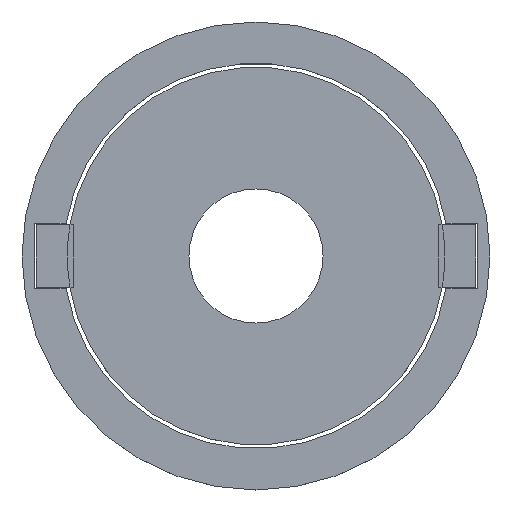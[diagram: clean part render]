
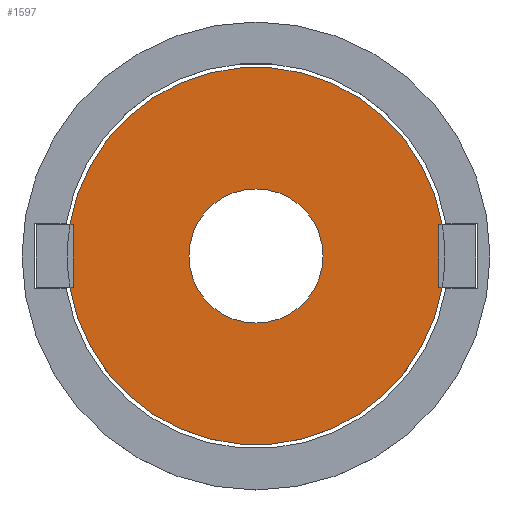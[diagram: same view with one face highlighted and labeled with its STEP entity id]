
A CAD part, top view. The second image highlights one B-rep face of the part: STEP entity #1597.
In plain terms, the highlighted planar face has unit normal (0, 0, 1).
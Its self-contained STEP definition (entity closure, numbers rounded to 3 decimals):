
#952 = CYLINDRICAL_SURFACE('',#953,12.1);
#953 = AXIS2_PLACEMENT_3D('',#954,#955,#956);
#954 = CARTESIAN_POINT('',(0.,0.,-0.8));
#955 = DIRECTION('',(0.,0.,1.));
#956 = DIRECTION('',(1.,0.,-0.));
#984 = CYLINDRICAL_SURFACE('',#985,12.1);
#985 = AXIS2_PLACEMENT_3D('',#986,#987,#988);
#986 = CARTESIAN_POINT('',(0.,0.,-0.8));
#987 = DIRECTION('',(0.,0.,1.));
#988 = DIRECTION('',(1.,0.,-0.));
#1059 = CYLINDRICAL_SURFACE('',#1060,4.3);
#1060 = AXIS2_PLACEMENT_3D('',#1061,#1062,#1063);
#1061 = CARTESIAN_POINT('',(0.,0.,-0.81));
#1062 = DIRECTION('',(0.,0.,1.));
#1063 = DIRECTION('',(1.,0.,-0.));
#1194 = EDGE_CURVE('',#1195,#1197,#1199,.T.);
#1195 = VERTEX_POINT('',#1196);
#1196 = CARTESIAN_POINT('',(11.934,2.,0.));
#1197 = VERTEX_POINT('',#1198);
#1198 = CARTESIAN_POINT('',(-11.934,2.,0.));
#1199 = SURFACE_CURVE('',#1200,(#1205,#1212),.PCURVE_S1.);
#1200 = CIRCLE('',#1201,12.1);
#1201 = AXIS2_PLACEMENT_3D('',#1202,#1203,#1204);
#1202 = CARTESIAN_POINT('',(0.,0.,0.));
#1203 = DIRECTION('',(0.,0.,1.));
#1204 = DIRECTION('',(1.,0.,-0.));
#1205 = PCURVE('',#984,#1206);
#1206 = DEFINITIONAL_REPRESENTATION('',(#1207),#1211);
#1207 = LINE('',#1208,#1209);
#1208 = CARTESIAN_POINT('',(0.,0.8));
#1209 = VECTOR('',#1210,1.);
#1210 = DIRECTION('',(1.,0.));
#1211 = ( GEOMETRIC_REPRESENTATION_CONTEXT(2) 
PARAMETRIC_REPRESENTATION_CONTEXT() REPRESENTATION_CONTEXT('2D SPACE',''
  ) );
#1212 = PCURVE('',#1213,#1218);
#1213 = PLANE('',#1214);
#1214 = AXIS2_PLACEMENT_3D('',#1215,#1216,#1217);
#1215 = CARTESIAN_POINT('',(0.,0.,0.));
#1216 = DIRECTION('',(0.,0.,1.));
#1217 = DIRECTION('',(1.,0.,-0.));
#1218 = DEFINITIONAL_REPRESENTATION('',(#1219),#1223);
#1219 = CIRCLE('',#1220,12.1);
#1220 = AXIS2_PLACEMENT_2D('',#1221,#1222);
#1221 = CARTESIAN_POINT('',(0.,0.));
#1222 = DIRECTION('',(1.,0.));
#1223 = ( GEOMETRIC_REPRESENTATION_CONTEXT(2) 
PARAMETRIC_REPRESENTATION_CONTEXT() REPRESENTATION_CONTEXT('2D SPACE',''
  ) );
#1273 = VERTEX_POINT('',#1274);
#1274 = CARTESIAN_POINT('',(11.934,-2.,0.));
#1293 = EDGE_CURVE('',#1294,#1273,#1296,.T.);
#1294 = VERTEX_POINT('',#1295);
#1295 = CARTESIAN_POINT('',(-11.934,-2.,0.));
#1296 = SURFACE_CURVE('',#1297,(#1302,#1309),.PCURVE_S1.);
#1297 = CIRCLE('',#1298,12.1);
#1298 = AXIS2_PLACEMENT_3D('',#1299,#1300,#1301);
#1299 = CARTESIAN_POINT('',(0.,0.,0.));
#1300 = DIRECTION('',(0.,0.,1.));
#1301 = DIRECTION('',(1.,0.,-0.));
#1302 = PCURVE('',#952,#1303);
#1303 = DEFINITIONAL_REPRESENTATION('',(#1304),#1308);
#1304 = LINE('',#1305,#1306);
#1305 = CARTESIAN_POINT('',(0.,0.8));
#1306 = VECTOR('',#1307,1.);
#1307 = DIRECTION('',(1.,0.));
#1308 = ( GEOMETRIC_REPRESENTATION_CONTEXT(2) 
PARAMETRIC_REPRESENTATION_CONTEXT() REPRESENTATION_CONTEXT('2D SPACE',''
  ) );
#1309 = PCURVE('',#1213,#1310);
#1310 = DEFINITIONAL_REPRESENTATION('',(#1311),#1315);
#1311 = CIRCLE('',#1312,12.1);
#1312 = AXIS2_PLACEMENT_2D('',#1313,#1314);
#1313 = CARTESIAN_POINT('',(0.,0.));
#1314 = DIRECTION('',(1.,0.));
#1315 = ( GEOMETRIC_REPRESENTATION_CONTEXT(2) 
PARAMETRIC_REPRESENTATION_CONTEXT() REPRESENTATION_CONTEXT('2D SPACE',''
  ) );
#1345 = EDGE_CURVE('',#1346,#1346,#1348,.T.);
#1346 = VERTEX_POINT('',#1347);
#1347 = CARTESIAN_POINT('',(4.3,0.,0.));
#1348 = SURFACE_CURVE('',#1349,(#1354,#1361),.PCURVE_S1.);
#1349 = CIRCLE('',#1350,4.3);
#1350 = AXIS2_PLACEMENT_3D('',#1351,#1352,#1353);
#1351 = CARTESIAN_POINT('',(0.,0.,0.));
#1352 = DIRECTION('',(0.,0.,1.));
#1353 = DIRECTION('',(1.,0.,-0.));
#1354 = PCURVE('',#1059,#1355);
#1355 = DEFINITIONAL_REPRESENTATION('',(#1356),#1360);
#1356 = LINE('',#1357,#1358);
#1357 = CARTESIAN_POINT('',(0.,0.81));
#1358 = VECTOR('',#1359,1.);
#1359 = DIRECTION('',(1.,0.));
#1360 = ( GEOMETRIC_REPRESENTATION_CONTEXT(2) 
PARAMETRIC_REPRESENTATION_CONTEXT() REPRESENTATION_CONTEXT('2D SPACE',''
  ) );
#1361 = PCURVE('',#1213,#1362);
#1362 = DEFINITIONAL_REPRESENTATION('',(#1363),#1367);
#1363 = CIRCLE('',#1364,4.3);
#1364 = AXIS2_PLACEMENT_2D('',#1365,#1366);
#1365 = CARTESIAN_POINT('',(0.,0.));
#1366 = DIRECTION('',(1.,0.));
#1367 = ( GEOMETRIC_REPRESENTATION_CONTEXT(2) 
PARAMETRIC_REPRESENTATION_CONTEXT() REPRESENTATION_CONTEXT('2D SPACE',''
  ) );
#1597 = ADVANCED_FACE('',(#1598,#1746),#1213,.T.);
#1598 = FACE_BOUND('',#1599,.T.);
#1599 = EDGE_LOOP('',(#1600,#1628,#1629,#1657,#1680,#1701,#1702,#1725));
#1600 = ORIENTED_EDGE('',*,*,#1601,.F.);
#1601 = EDGE_CURVE('',#1294,#1602,#1604,.T.);
#1602 = VERTEX_POINT('',#1603);
#1603 = CARTESIAN_POINT('',(-11.7,-2.,0.));
#1604 = SURFACE_CURVE('',#1605,(#1609,#1616),.PCURVE_S1.);
#1605 = LINE('',#1606,#1607);
#1606 = CARTESIAN_POINT('',(-14.1,-2.,0.));
#1607 = VECTOR('',#1608,1.);
#1608 = DIRECTION('',(1.,0.,0.));
#1609 = PCURVE('',#1213,#1610);
#1610 = DEFINITIONAL_REPRESENTATION('',(#1611),#1615);
#1611 = LINE('',#1612,#1613);
#1612 = CARTESIAN_POINT('',(-14.1,-2.));
#1613 = VECTOR('',#1614,1.);
#1614 = DIRECTION('',(1.,0.));
#1615 = ( GEOMETRIC_REPRESENTATION_CONTEXT(2) 
PARAMETRIC_REPRESENTATION_CONTEXT() REPRESENTATION_CONTEXT('2D SPACE',''
  ) );
#1616 = PCURVE('',#1617,#1622);
#1617 = PLANE('',#1618);
#1618 = AXIS2_PLACEMENT_3D('',#1619,#1620,#1621);
#1619 = CARTESIAN_POINT('',(0.,0.,0.));
#1620 = DIRECTION('',(0.,0.,1.));
#1621 = DIRECTION('',(1.,0.,-0.));
#1622 = DEFINITIONAL_REPRESENTATION('',(#1623),#1627);
#1623 = LINE('',#1624,#1625);
#1624 = CARTESIAN_POINT('',(-14.1,-2.));
#1625 = VECTOR('',#1626,1.);
#1626 = DIRECTION('',(1.,0.));
#1627 = ( GEOMETRIC_REPRESENTATION_CONTEXT(2) 
PARAMETRIC_REPRESENTATION_CONTEXT() REPRESENTATION_CONTEXT('2D SPACE',''
  ) );
#1628 = ORIENTED_EDGE('',*,*,#1293,.T.);
#1629 = ORIENTED_EDGE('',*,*,#1630,.F.);
#1630 = EDGE_CURVE('',#1631,#1273,#1633,.T.);
#1631 = VERTEX_POINT('',#1632);
#1632 = CARTESIAN_POINT('',(11.7,-2.,0.));
#1633 = SURFACE_CURVE('',#1634,(#1638,#1645),.PCURVE_S1.);
#1634 = LINE('',#1635,#1636);
#1635 = CARTESIAN_POINT('',(11.7,-2.,0.));
#1636 = VECTOR('',#1637,1.);
#1637 = DIRECTION('',(1.,0.,0.));
#1638 = PCURVE('',#1213,#1639);
#1639 = DEFINITIONAL_REPRESENTATION('',(#1640),#1644);
#1640 = LINE('',#1641,#1642);
#1641 = CARTESIAN_POINT('',(11.7,-2.));
#1642 = VECTOR('',#1643,1.);
#1643 = DIRECTION('',(1.,0.));
#1644 = ( GEOMETRIC_REPRESENTATION_CONTEXT(2) 
PARAMETRIC_REPRESENTATION_CONTEXT() REPRESENTATION_CONTEXT('2D SPACE',''
  ) );
#1645 = PCURVE('',#1646,#1651);
#1646 = PLANE('',#1647);
#1647 = AXIS2_PLACEMENT_3D('',#1648,#1649,#1650);
#1648 = CARTESIAN_POINT('',(0.,0.,0.));
#1649 = DIRECTION('',(0.,0.,1.));
#1650 = DIRECTION('',(1.,0.,-0.));
#1651 = DEFINITIONAL_REPRESENTATION('',(#1652),#1656);
#1652 = LINE('',#1653,#1654);
#1653 = CARTESIAN_POINT('',(11.7,-2.));
#1654 = VECTOR('',#1655,1.);
#1655 = DIRECTION('',(1.,0.));
#1656 = ( GEOMETRIC_REPRESENTATION_CONTEXT(2) 
PARAMETRIC_REPRESENTATION_CONTEXT() REPRESENTATION_CONTEXT('2D SPACE',''
  ) );
#1657 = ORIENTED_EDGE('',*,*,#1658,.T.);
#1658 = EDGE_CURVE('',#1631,#1659,#1661,.T.);
#1659 = VERTEX_POINT('',#1660);
#1660 = CARTESIAN_POINT('',(11.7,2.,0.));
#1661 = SURFACE_CURVE('',#1662,(#1666,#1673),.PCURVE_S1.);
#1662 = LINE('',#1663,#1664);
#1663 = CARTESIAN_POINT('',(11.7,-2.,0.));
#1664 = VECTOR('',#1665,1.);
#1665 = DIRECTION('',(0.,1.,0.));
#1666 = PCURVE('',#1213,#1667);
#1667 = DEFINITIONAL_REPRESENTATION('',(#1668),#1672);
#1668 = LINE('',#1669,#1670);
#1669 = CARTESIAN_POINT('',(11.7,-2.));
#1670 = VECTOR('',#1671,1.);
#1671 = DIRECTION('',(0.,1.));
#1672 = ( GEOMETRIC_REPRESENTATION_CONTEXT(2) 
PARAMETRIC_REPRESENTATION_CONTEXT() REPRESENTATION_CONTEXT('2D SPACE',''
  ) );
#1673 = PCURVE('',#1646,#1674);
#1674 = DEFINITIONAL_REPRESENTATION('',(#1675),#1679);
#1675 = LINE('',#1676,#1677);
#1676 = CARTESIAN_POINT('',(11.7,-2.));
#1677 = VECTOR('',#1678,1.);
#1678 = DIRECTION('',(0.,1.));
#1679 = ( GEOMETRIC_REPRESENTATION_CONTEXT(2) 
PARAMETRIC_REPRESENTATION_CONTEXT() REPRESENTATION_CONTEXT('2D SPACE',''
  ) );
#1680 = ORIENTED_EDGE('',*,*,#1681,.T.);
#1681 = EDGE_CURVE('',#1659,#1195,#1682,.T.);
#1682 = SURFACE_CURVE('',#1683,(#1687,#1694),.PCURVE_S1.);
#1683 = LINE('',#1684,#1685);
#1684 = CARTESIAN_POINT('',(11.7,2.,0.));
#1685 = VECTOR('',#1686,1.);
#1686 = DIRECTION('',(1.,0.,0.));
#1687 = PCURVE('',#1213,#1688);
#1688 = DEFINITIONAL_REPRESENTATION('',(#1689),#1693);
#1689 = LINE('',#1690,#1691);
#1690 = CARTESIAN_POINT('',(11.7,2.));
#1691 = VECTOR('',#1692,1.);
#1692 = DIRECTION('',(1.,0.));
#1693 = ( GEOMETRIC_REPRESENTATION_CONTEXT(2) 
PARAMETRIC_REPRESENTATION_CONTEXT() REPRESENTATION_CONTEXT('2D SPACE',''
  ) );
#1694 = PCURVE('',#1646,#1695);
#1695 = DEFINITIONAL_REPRESENTATION('',(#1696),#1700);
#1696 = LINE('',#1697,#1698);
#1697 = CARTESIAN_POINT('',(11.7,2.));
#1698 = VECTOR('',#1699,1.);
#1699 = DIRECTION('',(1.,0.));
#1700 = ( GEOMETRIC_REPRESENTATION_CONTEXT(2) 
PARAMETRIC_REPRESENTATION_CONTEXT() REPRESENTATION_CONTEXT('2D SPACE',''
  ) );
#1701 = ORIENTED_EDGE('',*,*,#1194,.T.);
#1702 = ORIENTED_EDGE('',*,*,#1703,.T.);
#1703 = EDGE_CURVE('',#1197,#1704,#1706,.T.);
#1704 = VERTEX_POINT('',#1705);
#1705 = CARTESIAN_POINT('',(-11.7,2.,0.));
#1706 = SURFACE_CURVE('',#1707,(#1711,#1718),.PCURVE_S1.);
#1707 = LINE('',#1708,#1709);
#1708 = CARTESIAN_POINT('',(-14.1,2.,0.));
#1709 = VECTOR('',#1710,1.);
#1710 = DIRECTION('',(1.,0.,0.));
#1711 = PCURVE('',#1213,#1712);
#1712 = DEFINITIONAL_REPRESENTATION('',(#1713),#1717);
#1713 = LINE('',#1714,#1715);
#1714 = CARTESIAN_POINT('',(-14.1,2.));
#1715 = VECTOR('',#1716,1.);
#1716 = DIRECTION('',(1.,0.));
#1717 = ( GEOMETRIC_REPRESENTATION_CONTEXT(2) 
PARAMETRIC_REPRESENTATION_CONTEXT() REPRESENTATION_CONTEXT('2D SPACE',''
  ) );
#1718 = PCURVE('',#1617,#1719);
#1719 = DEFINITIONAL_REPRESENTATION('',(#1720),#1724);
#1720 = LINE('',#1721,#1722);
#1721 = CARTESIAN_POINT('',(-14.1,2.));
#1722 = VECTOR('',#1723,1.);
#1723 = DIRECTION('',(1.,0.));
#1724 = ( GEOMETRIC_REPRESENTATION_CONTEXT(2) 
PARAMETRIC_REPRESENTATION_CONTEXT() REPRESENTATION_CONTEXT('2D SPACE',''
  ) );
#1725 = ORIENTED_EDGE('',*,*,#1726,.F.);
#1726 = EDGE_CURVE('',#1602,#1704,#1727,.T.);
#1727 = SURFACE_CURVE('',#1728,(#1732,#1739),.PCURVE_S1.);
#1728 = LINE('',#1729,#1730);
#1729 = CARTESIAN_POINT('',(-11.7,-2.,0.));
#1730 = VECTOR('',#1731,1.);
#1731 = DIRECTION('',(0.,1.,0.));
#1732 = PCURVE('',#1213,#1733);
#1733 = DEFINITIONAL_REPRESENTATION('',(#1734),#1738);
#1734 = LINE('',#1735,#1736);
#1735 = CARTESIAN_POINT('',(-11.7,-2.));
#1736 = VECTOR('',#1737,1.);
#1737 = DIRECTION('',(0.,1.));
#1738 = ( GEOMETRIC_REPRESENTATION_CONTEXT(2) 
PARAMETRIC_REPRESENTATION_CONTEXT() REPRESENTATION_CONTEXT('2D SPACE',''
  ) );
#1739 = PCURVE('',#1617,#1740);
#1740 = DEFINITIONAL_REPRESENTATION('',(#1741),#1745);
#1741 = LINE('',#1742,#1743);
#1742 = CARTESIAN_POINT('',(-11.7,-2.));
#1743 = VECTOR('',#1744,1.);
#1744 = DIRECTION('',(0.,1.));
#1745 = ( GEOMETRIC_REPRESENTATION_CONTEXT(2) 
PARAMETRIC_REPRESENTATION_CONTEXT() REPRESENTATION_CONTEXT('2D SPACE',''
  ) );
#1746 = FACE_BOUND('',#1747,.T.);
#1747 = EDGE_LOOP('',(#1748));
#1748 = ORIENTED_EDGE('',*,*,#1345,.F.);
